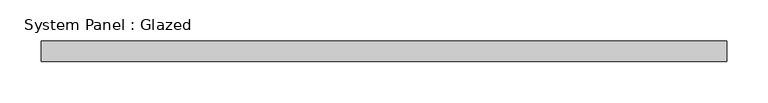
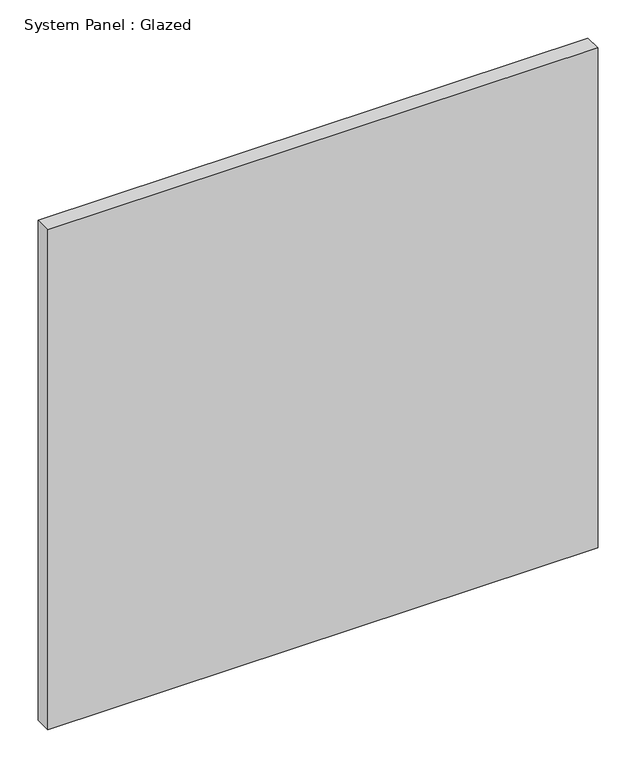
"""IFC4 building model written with IfcOpenShell, lengths in millimetres: plate geometry, System Panel : Glazed."""

from ifc_helpers import new_model, si_unit, origin, origin_with_axes, place, context, project, spatial, polyline, outline, extrude, source, transform, mapped, element, save


def system_panel_glazed_a22f7e45(model_context):
    return source(origin(), model_context, "Body", "SweptSolid", [
        extrude(outline(polyline([(417.7455708, -44.45), (-417.7455708, -44.45), (-417.7455708, -19.05), (417.7455708, -19.05), (417.7455708, -44.45)])), origin_with_axes(), (0.0, 0.0, 1.0), 802.4190025),
    ])


if __name__ == "__main__":
    model = new_model("IFC4")
    model_context = context("Model", 3, world=origin())
    ifc_project = project(units=[si_unit("LENGTHUNIT", "METRE", prefix="MILLI")], contexts=[model_context])
    site = spatial("IfcSite", under=ifc_project)
    building = spatial("IfcBuilding", under=site)
    placement = place(None, origin())
    system_panel_glazed_shape = system_panel_glazed_a22f7e45(model_context)
    element("IfcPlate", 1, ObjectType="System Panel : Glazed", at=placement, inside=building, context=model_context, shape_type="MappedRepresentation", body=[
        mapped(system_panel_glazed_shape, transform((0.0, 0.0, 0.0), x_axis=(1.0, 0.0, 0.0), y_axis=(0.0, 1.0, 0.0), z_axis=(0.0, 0.0, 1.0))),
    ])
    save(model, "model.ifc")
